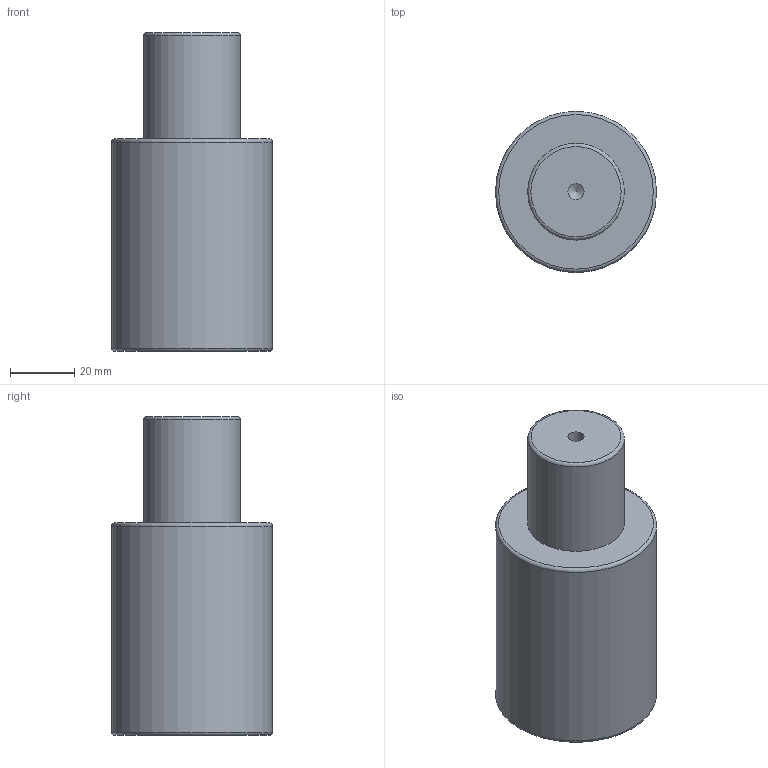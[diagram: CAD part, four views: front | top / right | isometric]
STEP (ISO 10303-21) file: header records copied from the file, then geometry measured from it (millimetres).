
FILE_DESCRIPTION(/* description */ (''),/* implementation_level */ '2;1');
FILE_NAME(/* name */ 'NV5-SMLX.50x32.stp',/* time_stamp */ '2018-08-31T16:08:33+02:00',/* author */ (''),/* organization */ (''),/* preprocessor_version */ 'ST-DEVELOPER v16',/* originating_system */ 'SIEMENS PLM Software NX 10.0',/* authorisation */ '');
FILE_SCHEMA (('AUTOMOTIVE_DESIGN { 1 0 10303 214 3 1 1 1 }'));
Length unit declared in the file: millimetre
Products named in the file (1): NV5-SMLX.50x32
Bounding box: 50 x 50 x 99 mm (x, y, z)
Volume: 151591.5 mm3; surface area: 17867.3 mm2
Topology: 1 solids, 1 shells, 12 faces, 24 edges, 15 vertices
Faces by surface type: cylinder 4, torus 3, plane 3, cone 2
Full cylindrical faces by diameter (mm): 5 x1, 8.5 x1, 30 x1, 50 x1
Entity records: 266 total; most frequent: DIRECTION 48, CARTESIAN_POINT 37, FACE_BOUND 24, AXIS2_PLACEMENT_3D 24, EDGE_LOOP 22, ORIENTED_EDGE 22, VERTEX_POINT 13, ADVANCED_FACE 12
